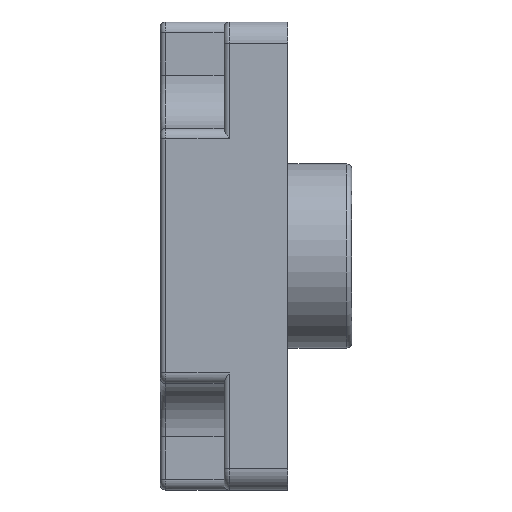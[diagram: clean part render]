
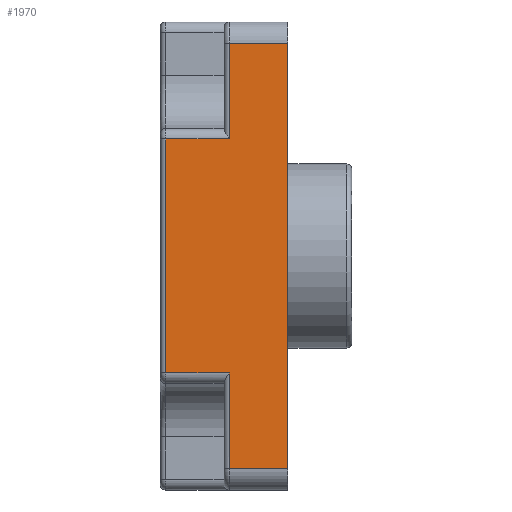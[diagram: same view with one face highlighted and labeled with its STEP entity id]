
A CAD part, left-side view. The second image highlights one B-rep face of the part: STEP entity #1970.
In plain terms, the highlighted planar face has unit normal (-1, 0, 0).
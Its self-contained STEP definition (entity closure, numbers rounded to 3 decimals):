
#60 = DIRECTION ( 'NONE',  ( 0., 0., -1. ) ) ;
#74 = VECTOR ( 'NONE', #2524, 1000. ) ;
#135 = CARTESIAN_POINT ( 'NONE',  ( -22., 5.5, -11. ) ) ;
#183 = VERTEX_POINT ( 'NONE', #135 ) ;
#201 = VECTOR ( 'NONE', #2418, 1000. ) ;
#251 = DIRECTION ( 'NONE',  ( 0., 0., -1. ) ) ;
#260 = LINE ( 'NONE', #522, #794 ) ;
#279 = ORIENTED_EDGE ( 'NONE', *, *, #1661, .T. ) ;
#302 = CARTESIAN_POINT ( 'NONE',  ( -22., 12., -11. ) ) ;
#522 = CARTESIAN_POINT ( 'NONE',  ( -22., 5.5, -20. ) ) ;
#581 = ORIENTED_EDGE ( 'NONE', *, *, #2415, .T. ) ;
#604 = CARTESIAN_POINT ( 'NONE',  ( -22., 5.5, 11. ) ) ;
#751 = VECTOR ( 'NONE', #1041, 1000. ) ;
#794 = VECTOR ( 'NONE', #1159, 1000. ) ;
#820 = ORIENTED_EDGE ( 'NONE', *, *, #1681, .T. ) ;
#864 = FACE_OUTER_BOUND ( 'NONE', #2512, .T. ) ;
#1025 = ORIENTED_EDGE ( 'NONE', *, *, #1991, .T. ) ;
#1031 = CARTESIAN_POINT ( 'NONE',  ( -22., 0., 20. ) ) ;
#1035 = LINE ( 'NONE', #2224, #201 ) ;
#1041 = DIRECTION ( 'NONE',  ( 0., 0., 1. ) ) ;
#1072 = LINE ( 'NONE', #2265, #2560 ) ;
#1080 = CARTESIAN_POINT ( 'NONE',  ( -22., 11.5, -11. ) ) ;
#1097 = PLANE ( 'NONE',  #2413 ) ;
#1159 = DIRECTION ( 'NONE',  ( 0., 0., -1. ) ) ;
#1199 = LINE ( 'NONE', #2315, #74 ) ;
#1407 = VECTOR ( 'NONE', #2563, 1000. ) ;
#1496 = ORIENTED_EDGE ( 'NONE', *, *, #2222, .T. ) ;
#1512 = VECTOR ( 'NONE', #1617, 1000. ) ;
#1524 = VERTEX_POINT ( 'NONE', #1871 ) ;
#1541 = DIRECTION ( 'NONE',  ( 1., 0., 0. ) ) ;
#1544 = CARTESIAN_POINT ( 'NONE',  ( -22., 0., -20. ) ) ;
#1575 = EDGE_CURVE ( 'NONE', #1664, #183, #2764, .T. ) ;
#1617 = DIRECTION ( 'NONE',  ( 0., -1., 0. ) ) ;
#1661 = EDGE_CURVE ( 'NONE', #1524, #2715, #1035, .T. ) ;
#1664 = VERTEX_POINT ( 'NONE', #2634 ) ;
#1681 = EDGE_CURVE ( 'NONE', #183, #1524, #260, .T. ) ;
#1713 = ORIENTED_EDGE ( 'NONE', *, *, #1575, .T. ) ;
#1745 = CARTESIAN_POINT ( 'NONE',  ( -22., 12., 20. ) ) ;
#1774 = EDGE_CURVE ( 'NONE', #2281, #1798, #2657, .T. ) ;
#1798 = VERTEX_POINT ( 'NONE', #2076 ) ;
#1871 = CARTESIAN_POINT ( 'NONE',  ( -22., 5.5, -20. ) ) ;
#1896 = CARTESIAN_POINT ( 'NONE',  ( -22., 11.5, 11. ) ) ;
#1960 = LINE ( 'NONE', #1031, #751 ) ;
#1970 = ADVANCED_FACE ( 'NONE', ( #864 ), #1097, .F. ) ;
#1991 = EDGE_CURVE ( 'NONE', #2367, #1664, #2124, .T. ) ;
#2062 = VECTOR ( 'NONE', #60, 1000. ) ;
#2076 = CARTESIAN_POINT ( 'NONE',  ( -22., 0., 20. ) ) ;
#2124 = LINE ( 'NONE', #1080, #2062 ) ;
#2222 = EDGE_CURVE ( 'NONE', #2274, #2367, #1072, .T. ) ;
#2224 = CARTESIAN_POINT ( 'NONE',  ( -22., 12., -20. ) ) ;
#2265 = CARTESIAN_POINT ( 'NONE',  ( -22., 12., 11. ) ) ;
#2274 = VERTEX_POINT ( 'NONE', #604 ) ;
#2281 = VERTEX_POINT ( 'NONE', #2707 ) ;
#2315 = CARTESIAN_POINT ( 'NONE',  ( -22., 5.5, 11. ) ) ;
#2367 = VERTEX_POINT ( 'NONE', #1896 ) ;
#2413 = AXIS2_PLACEMENT_3D ( 'NONE', #1745, #1541, #251 ) ;
#2415 = EDGE_CURVE ( 'NONE', #2281, #2274, #1199, .T. ) ;
#2418 = DIRECTION ( 'NONE',  ( 0., -1., 0. ) ) ;
#2481 = CARTESIAN_POINT ( 'NONE',  ( -22., 12., 20. ) ) ;
#2512 = EDGE_LOOP ( 'NONE', ( #1713, #820, #279, #2611, #2754, #581, #1496, #1025 ) ) ;
#2524 = DIRECTION ( 'NONE',  ( 0., 0., -1. ) ) ;
#2560 = VECTOR ( 'NONE', #2695, 1000. ) ;
#2563 = DIRECTION ( 'NONE',  ( 0., -1., 0. ) ) ;
#2591 = EDGE_CURVE ( 'NONE', #2715, #1798, #1960, .T. ) ;
#2611 = ORIENTED_EDGE ( 'NONE', *, *, #2591, .T. ) ;
#2634 = CARTESIAN_POINT ( 'NONE',  ( -22., 11.5, -11. ) ) ;
#2657 = LINE ( 'NONE', #2481, #1512 ) ;
#2695 = DIRECTION ( 'NONE',  ( 0., 1., 0. ) ) ;
#2707 = CARTESIAN_POINT ( 'NONE',  ( -22., 5.5, 20. ) ) ;
#2715 = VERTEX_POINT ( 'NONE', #1544 ) ;
#2754 = ORIENTED_EDGE ( 'NONE', *, *, #1774, .F. ) ;
#2764 = LINE ( 'NONE', #302, #1407 ) ;
